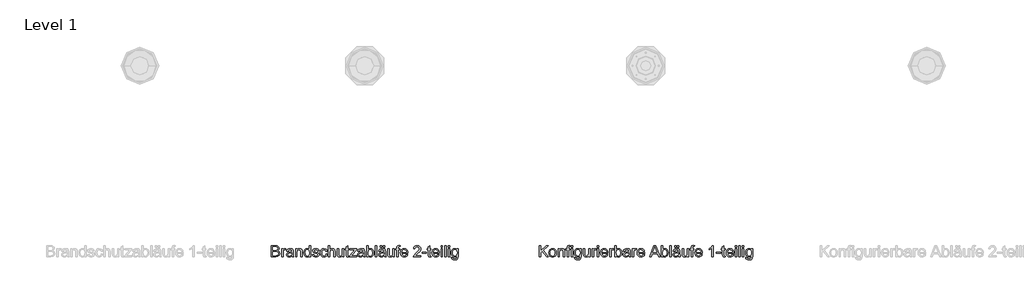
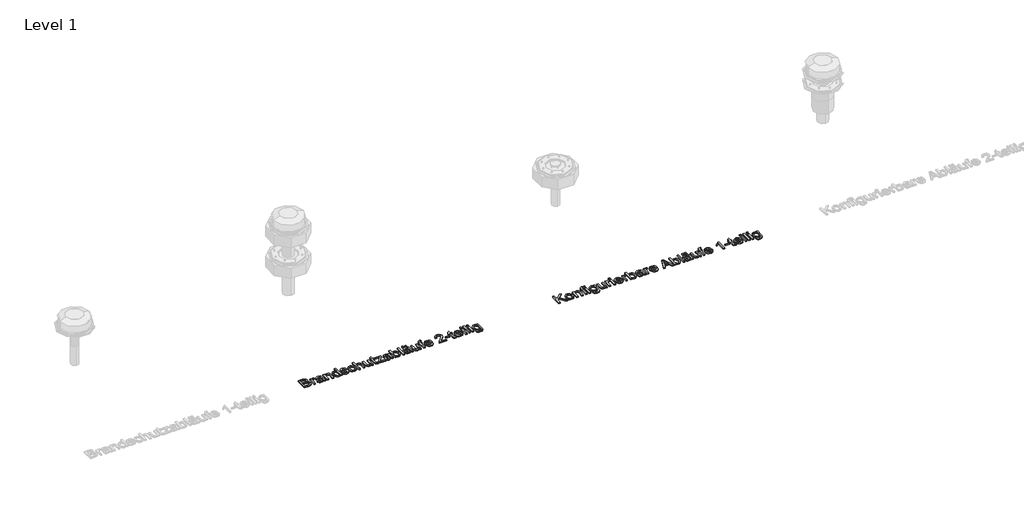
# One storey, part 3 of 4: 2 proxies.
"""IFC4 building model written with IfcOpenShell, lengths in millimetres."""

from ifc_helpers import new_model, si_unit, origin, origin_with_axes, place, context, project, spatial, polyline, outline, extrude, element, save

model = new_model("IFC4")

# Units and contexts
model_context = context("Model", 3, world=origin())
ifc_project = project(units=[si_unit("LENGTHUNIT", "METRE", prefix="MILLI")], contexts=[model_context])

# Site, building, storey
site = spatial("IfcSite", under=ifc_project)
building = spatial("IfcBuilding", under=site)
storey = spatial("IfcBuildingStorey", under=building, Name="Level 1", Elevation=0.0)

# Proxies
placement = place(None, origin())
element("IfcBuildingElementProxy", 1, Name="100mm ACO", ObjectType="100mm ACO", at=placement, inside=storey, context=model_context, shape_type="SweptSolid", body=[
    extrude(outline(polyline([(6724.21875, -647.193287), (6738.7152778, -656.4236111), (6743.5185185, -671.1516204), (6739.380787, -686.4583333), (6727.6186343, -696.7158565), (6706.9444444, -700.0), (6669.4444444, -700.0), (6669.4444444, -600.0), (6705.8159722, -600.0), (6720.8658854, -601.9965278), (6730.7146991, -607.9861111), (6736.150897, -616.4134838), (6737.962963, -625.7233796), (6734.5486111, -637.9340278), (6724.21875, -647.193287)]), holes=[polyline([(6682.4074074, -688.8888889), (6707.0601852, -688.8888889), (6718.2617187, -687.7206308), (6725.4195602, -684.2158565), (6730.5555556, -671.2962963), (6729.1883681, -663.9069734), (6725.0868056, -658.3478009), (6717.4189815, -654.864728), (6705.3530093, -653.7037037), (6682.4074074, -653.7037037), (6682.4074074, -688.8888889)]), polyline([(6682.4074074, -642.5925926), (6703.2118056, -642.5925926), (6713.9756944, -641.8113426), (6721.6579861, -637.6591435), (6725.0, -627.1990741), (6721.6290509, -616.2181713), (6713.5850694, -611.8923611), (6701.5914352, -611.1111111), (6682.4074074, -611.1111111), (6682.4074074, -642.5925926)])]), origin_with_axes(), (0.0, 0.0, 1.0), 10.0),
    extrude(outline(polyline([(6799.0740741, -628.7615741), (6795.0231481, -637.037037), (6786.5162037, -635.1851852), (6780.7219329, -636.8127894), (6776.5335648, -641.6956019), (6773.1481481, -659.9247685), (6773.1481481, -700.0), (6760.1851852, -700.0), (6760.1851852, -627.7777778), (6771.2962963, -627.7777778), (6771.2962963, -638.4837963), (6778.2262731, -629.0653935), (6786.6608796, -625.9259259), (6799.0740741, -628.7615741)])), origin_with_axes(), (0.0, 0.0, 1.0), 10.0),
    extrude(outline(polyline([(6869.4444444, -700.0), (6856.4814815, -700.0), (6852.7777778, -691.2615741), (6840.2850116, -699.2042824), (6826.8229167, -701.8518519), (6816.8366609, -700.4050926), (6809.2158565, -696.0648148), (6804.3872975, -689.3518519), (6802.7777778, -680.787037), (6804.3547454, -672.479022), (6809.0856481, -665.7841435), (6817.7155671, -660.8904803), (6830.9895833, -657.9861111), (6842.3321759, -656.25), (6852.7777778, -653.7037037), (6852.4450231, -645.6741898), (6850.5063657, -640.7986111), (6845.3414352, -636.7332176), (6835.7638889, -635.1851852), (6823.6834491, -638.3246528), (6817.5925926, -650.0), (6804.6296296, -648.4085648), (6808.1850405, -638.599537), (6814.8582176, -631.568287), (6824.6419271, -627.3365162), (6837.5289352, -625.9259259), (6856.7853009, -629.7887731), (6864.3373843, -639.1059028), (6865.7407407, -653.1539352), (6865.7407407, -669.6759259), (6866.2905093, -689.9305556), (6869.4444444, -700.0)]), holes=[polyline([(6852.7777778, -667.5925926), (6852.7777778, -662.962963), (6829.4994213, -668.287037), (6819.1804109, -672.3451968), (6815.7407407, -680.5844907), (6819.4444444, -689.2071759), (6830.1215278, -692.5925926), (6845.9346065, -686.9212963), (6851.066985, -679.2534722), (6852.7777778, -667.5925926)])]), origin_with_axes(), (0.0, 0.0, 1.0), 10.0),
    extrude(outline(polyline([(6943.5185185, -700.0), (6930.5555556, -700.0), (6930.5555556, -655.0347222), (6926.6927083, -639.4386574), (6915.943287, -635.1851852), (6905.9172454, -637.9050926), (6899.2042824, -645.5729167), (6897.2222222, -659.5775463), (6897.2222222, -700.0), (6884.2592593, -700.0), (6884.2592593, -627.7777778), (6895.3703704, -627.7777778), (6895.3703704, -637.818287), (6905.2662037, -628.8917824), (6918.5185185, -625.9259259), (6929.8900463, -627.9803241), (6938.6863426, -634.1290509), (6942.6938657, -642.8674769), (6943.5185185, -655.4108796), (6943.5185185, -700.0)])), origin_with_axes(), (0.0, 0.0, 1.0), 10.0),
    extrude(outline(polyline([(7021.2962963, -700.0), (7008.3333333, -700.0), (7008.3333333, -691.8402778), (6999.9782986, -699.3489583), (6988.599537, -701.8518519), (6976.7324942, -699.2115162), (6966.9994213, -691.2905093), (6960.4998553, -679.1594329), (6958.3333333, -663.8888889), (6960.4094329, -648.1481481), (6966.6377315, -636.1111111), (6976.2731481, -628.4722222), (6988.5706019, -625.9259259), (6999.8553241, -628.2118056), (7008.0729167, -635.0694444), (7008.3333333, -600.0), (7021.2962963, -600.0), (7021.2962963, -700.0)]), holes=[polyline([(6990.1041667, -692.5925926), (6997.1571181, -690.8854167), (7003.0381944, -685.7638889), (7007.0095486, -677.1701389), (7008.3333333, -665.0462963), (7003.4866898, -643.287037), (6997.5875289, -637.2106481), (6989.5833333, -635.1851852), (6981.6370081, -637.1672454), (6975.9114583, -643.1134259), (6971.2962963, -663.9178241), (6973.7847222, -679.6730324), (6980.7291667, -689.3518519), (6990.1041667, -692.5925926)])]), origin_with_axes(), (0.0, 0.0, 1.0), 10.0),
    extrude(outline(polyline([(7080.5555556, -648.1481481), (7075.7667824, -638.4259259), (7064.6990741, -635.1851852), (7053.3854167, -637.962963), (7049.0740741, -646.0358796), (7051.9241898, -653.1828704), (7065.3645833, -657.0601852), (7083.0873843, -661.2268519), (7092.1296296, -667.5491898), (7095.3703704, -678.8773148), (7093.359375, -687.8074363), (7087.3263889, -695.2112269), (7077.9296875, -700.1916956), (7065.8275463, -701.8518519), (7053.3528646, -700.4557292), (7043.9380787, -696.2673611), (7037.5759549, -689.2939815), (7034.2592593, -679.5428241), (7047.2222222, -677.7777778), (7052.8211806, -688.9033565), (7065.8275463, -692.5925926), (7078.125, -688.7586806), (7082.4074074, -679.4270833), (7080.4832176, -673.4519676), (7075.6799769, -670.0810185), (7062.0949074, -667.1875), (7041.1603009, -659.375), (7036.1111111, -646.7881944), (7037.9810475, -638.5018808), (7043.5908565, -631.8142361), (7052.3618345, -627.3980035), (7063.7152778, -625.9259259), (7075.6474248, -627.2135417), (7084.5920139, -631.0763889), (7090.5490451, -637.5072338), (7093.5185185, -646.4988426), (7080.5555556, -648.1481481)])), origin_with_axes(), (0.0, 0.0, 1.0), 10.0),
    extrude(outline(polyline([(7169.4444444, -675.5497685), (7165.4152199, -687.3553241), (7158.2465278, -695.5150463), (7148.9221644, -700.2676505), (7138.4259259, -701.8518519), (7124.1102431, -699.2621528), (7113.4548611, -691.4930556), (7106.8359375, -679.4487847), (7104.6296296, -664.0335648), (7109.6643519, -641.3483796), (7122.265625, -629.3836806), (7138.1655093, -625.9259259), (7157.6244213, -631.5827546), (7164.1601562, -638.566985), (7167.5925926, -648.2060185), (7154.6296296, -650.0), (7148.7268519, -638.9033565), (7138.3101852, -635.1851852), (7129.3547454, -637.0695891), (7122.8587963, -642.7228009), (7118.9091435, -651.7541956), (7117.5925926, -663.7731481), (7118.9127604, -676.0018808), (7122.8732639, -685.083912), (7129.3221933, -690.7154225), (7138.1076389, -692.5925926), (7150.708912, -687.962963), (7156.4814815, -674.0740741), (7169.4444444, -675.5497685)])), origin_with_axes(), (0.0, 0.0, 1.0), 10.0),
    extrude(outline(polyline([(7236.1111111, -700.0), (7223.1481481, -700.0), (7223.1481481, -653.2986111), (7219.458912, -639.7135417), (7208.4490741, -635.1851852), (7195.5150463, -640.5237269), (7191.2398727, -647.9564525), (7189.8148148, -659.5775463), (7189.8148148, -700.0), (7176.8518519, -700.0), (7176.8518519, -600.0), (7189.8148148, -600.0), (7189.8148148, -635.8217593), (7199.5153356, -628.3998843), (7211.3715278, -625.9259259), (7224.6527778, -628.7905093), (7233.5503472, -637.6012731), (7236.1111111, -654.1087963), (7236.1111111, -700.0)])), origin_with_axes(), (0.0, 0.0, 1.0), 10.0),
    extrude(outline(polyline([(7313.8888889, -700.0), (7302.7777778, -700.0), (7302.7777778, -689.4965278), (7292.5347222, -698.7630208), (7279.5717593, -701.8518519), (7265.4513889, -698.3362269), (7256.7997685, -688.6574074), (7254.6296296, -672.65625), (7254.6296296, -627.7777778), (7267.5925926, -627.7777778), (7267.5925926, -668.75), (7268.4895833, -682.8414352), (7273.1770833, -689.84375), (7282.2048611, -692.5925926), (7294.9508102, -687.6736111), (7299.432147, -680.1215278), (7300.9259259, -667.3032407), (7300.9259259, -627.7777778), (7313.8888889, -627.7777778), (7313.8888889, -700.0)])), origin_with_axes(), (0.0, 0.0, 1.0), 10.0),
    extrude(outline(polyline([(7360.1851852, -701.0127315), (7351.099537, -701.8518519), (7339.5109954, -698.9728009), (7335.0694444, -691.6666667), (7334.2592593, -679.3402778), (7334.2592593, -637.037037), (7325.0, -637.037037), (7325.0, -627.7777778), (7334.2592593, -627.7777778), (7334.2592593, -609.4328704), (7347.2222222, -601.8518519), (7347.2222222, -627.7777778), (7358.3333333, -627.7777778), (7358.3333333, -637.037037), (7347.2222222, -637.037037), (7347.2222222, -681.9444444), (7348.2638889, -690.162037), (7353.5590278, -692.5925926), (7358.59375, -692.5925926), (7360.1851852, -701.0127315)])), origin_with_axes(), (0.0, 0.0, 1.0), 10.0),
    extrude(outline(polyline([(7428.7037037, -700.0), (7365.7407407, -700.0), (7365.7407407, -691.40625), (7411.7476852, -636.5451389), (7397.6851852, -637.037037), (7367.5925926, -637.037037), (7367.5925926, -627.7777778), (7426.8518519, -627.7777778), (7426.8518519, -635.0983796), (7387.2685185, -682.5520833), (7381.2210648, -689.4675926), (7379.6296296, -691.3773148), (7395.1099537, -690.7407407), (7428.7037037, -690.7407407), (7428.7037037, -700.0)])), origin_with_axes(), (0.0, 0.0, 1.0), 10.0),
    extrude(outline(polyline([(7502.7777778, -700.0), (7489.8148148, -700.0), (7486.1111111, -691.2615741), (7473.6183449, -699.2042824), (7460.15625, -701.8518519), (7450.1699942, -700.4050926), (7442.5491898, -696.0648148), (7437.7206308, -689.3518519), (7436.1111111, -680.787037), (7437.6880787, -672.479022), (7442.4189815, -665.7841435), (7451.0489005, -660.8904803), (7464.3229167, -657.9861111), (7475.6655093, -656.25), (7486.1111111, -653.7037037), (7485.7783565, -645.6741898), (7483.8396991, -640.7986111), (7478.6747685, -636.7332176), (7469.0972222, -635.1851852), (7457.0167824, -638.3246528), (7450.9259259, -650.0), (7437.962963, -648.4085648), (7441.5183738, -638.599537), (7448.1915509, -631.568287), (7457.9752604, -627.3365162), (7470.8622685, -625.9259259), (7490.1186343, -629.7887731), (7497.6707176, -639.1059028), (7499.0740741, -653.1539352), (7499.0740741, -669.6759259), (7499.6238426, -689.9305556), (7502.7777778, -700.0)]), holes=[polyline([(7486.1111111, -667.5925926), (7486.1111111, -662.962963), (7462.8327546, -668.287037), (7452.5137442, -672.3451968), (7449.0740741, -680.5844907), (7452.7777778, -689.2071759), (7463.4548611, -692.5925926), (7479.2679398, -686.9212963), (7484.4003183, -679.2534722), (7486.1111111, -667.5925926)])]), origin_with_axes(), (0.0, 0.0, 1.0), 10.0),
    extrude(outline(polyline([(7530.7291667, -634.9247685), (7539.0914352, -628.1756366), (7550.1736111, -625.9259259), (7562.5976562, -628.4722222), (7572.265625, -636.1111111), (7578.4830729, -647.8587963), (7580.5555556, -662.7314815), (7578.2769097, -679.4668692), (7571.4409722, -691.7679398), (7561.5523727, -699.3308738), (7550.1157407, -701.8518519), (7539.098669, -699.3778935), (7530.8159722, -691.9560185), (7530.5555556, -700.0), (7517.5925926, -700.0), (7517.5925926, -600.0), (7530.5555556, -600.0), (7530.7291667, -634.9247685)]), holes=[polyline([(7548.900463, -692.5925926), (7556.3187211, -690.7009549), (7562.3119213, -685.0260417), (7566.2724248, -675.9295428), (7567.5925926, -663.7731481), (7562.7314815, -642.896412), (7556.9444444, -637.1129919), (7549.3055556, -635.1851852), (7541.6811343, -637.1744792), (7535.7060185, -643.1423611), (7530.5555556, -663.28125), (7532.6967593, -680.2372685), (7539.1493056, -688.9322917), (7548.900463, -692.5925926)])]), origin_with_axes(), (0.0, 0.0, 1.0), 10.0),
    extrude(outline(polyline([(7608.3333333, -700.0), (7595.3703704, -700.0), (7595.3703704, -600.0), (7608.3333333, -600.0), (7608.3333333, -700.0)])), origin_with_axes(), (0.0, 0.0, 1.0), 10.0),
    extrude(outline(polyline([(7676.8518519, -614.8148148), (7663.8888889, -614.8148148), (7663.8888889, -600.0), (7676.8518519, -600.0), (7676.8518519, -614.8148148)])), origin_with_axes(), (0.0, 0.0, 1.0), 10.0),
    extrude(outline(polyline([(7650.9259259, -614.8148148), (7637.962963, -614.8148148), (7637.962963, -600.0), (7650.9259259, -600.0), (7650.9259259, -614.8148148)])), origin_with_axes(), (0.0, 0.0, 1.0), 10.0),
    extrude(outline(polyline([(7689.8148148, -700.0), (7676.8518519, -700.0), (7673.1481481, -691.2615741), (7660.6553819, -699.2042824), (7647.193287, -701.8518519), (7637.2070312, -700.4050926), (7629.5862269, -696.0648148), (7624.7576678, -689.3518519), (7623.1481481, -680.787037), (7624.7251157, -672.479022), (7629.4560185, -665.7841435), (7638.0859375, -660.8904803), (7651.3599537, -657.9861111), (7662.7025463, -656.25), (7673.1481481, -653.7037037), (7672.8153935, -645.6741898), (7670.8767361, -640.7986111), (7665.7118056, -636.7332176), (7656.1342593, -635.1851852), (7644.0538194, -638.3246528), (7637.962963, -650.0), (7625.0, -648.4085648), (7628.5554109, -638.599537), (7635.228588, -631.568287), (7645.0122975, -627.3365162), (7657.8993056, -625.9259259), (7677.1556713, -629.7887731), (7684.7077546, -639.1059028), (7686.1111111, -653.1539352), (7686.1111111, -669.6759259), (7686.6608796, -689.9305556), (7689.8148148, -700.0)]), holes=[polyline([(7673.1481481, -667.5925926), (7673.1481481, -662.962963), (7649.8697917, -668.287037), (7639.5507812, -672.3451968), (7636.1111111, -680.5844907), (7639.8148148, -689.2071759), (7650.4918981, -692.5925926), (7666.3049769, -686.9212963), (7671.4373553, -679.2534722), (7673.1481481, -667.5925926)])]), origin_with_axes(), (0.0, 0.0, 1.0), 10.0),
    extrude(outline(polyline([(7763.8888889, -700.0), (7752.7777778, -700.0), (7752.7777778, -689.4965278), (7742.5347222, -698.7630208), (7729.5717593, -701.8518519), (7715.4513889, -698.3362269), (7706.7997685, -688.6574074), (7704.6296296, -672.65625), (7704.6296296, -627.7777778), (7717.5925926, -627.7777778), (7717.5925926, -668.75), (7718.4895833, -682.8414352), (7723.1770833, -689.84375), (7732.2048611, -692.5925926), (7744.9508102, -687.6736111), (7749.432147, -680.1215278), (7750.9259259, -667.3032407), (7750.9259259, -627.7777778), (7763.8888889, -627.7777778), (7763.8888889, -700.0)])), origin_with_axes(), (0.0, 0.0, 1.0), 10.0),
    extrude(outline(polyline([(7815.7407407, -599.1030093), (7814.1493056, -607.4074074), (7807.8414352, -607.4074074), (7801.5335648, -609.5341435), (7799.0740741, -620.0520833), (7799.0740741, -627.7777778), (7810.1851852, -627.7777778), (7810.1851852, -637.037037), (7799.0740741, -637.037037), (7799.0740741, -700.0), (7786.1111111, -700.0), (7786.1111111, -637.037037), (7775.0, -637.037037), (7775.0, -627.7777778), (7786.1111111, -627.7777778), (7786.1111111, -619.849537), (7787.0804398, -609.8668981), (7792.1875, -601.7650463), (7804.9479167, -598.1481481), (7815.7407407, -599.1030093)])), origin_with_axes(), (0.0, 0.0, 1.0), 10.0),
    extrude(outline(polyline([(7884.2592593, -666.6666667), (7830.5555556, -666.6666667), (7832.6280382, -677.7922454), (7837.3408565, -685.9375), (7844.1225405, -690.9288194), (7852.4016204, -692.5925926), (7864.0769676, -688.9033565), (7871.2962963, -677.7777778), (7884.2592593, -679.2824074), (7879.8828125, -688.9033565), (7872.9456019, -696.0069444), (7863.7008102, -700.390625), (7852.4016204, -701.8518519), (7837.8146701, -699.3453414), (7826.8084491, -691.8258102), (7819.8965567, -679.9660012), (7817.5925926, -664.4386574), (7819.8133681, -648.900463), (7826.4756944, -636.6030093), (7837.1744792, -628.5951968), (7851.5046296, -625.9259259), (7866.724537, -629.3836806), (7879.1521991, -641.1603009), (7882.9824942, -651.6963252), (7884.2592593, -666.6666667)]), holes=[polyline([(7871.2962963, -657.4074074), (7869.212963, -647.2511574), (7864.4675926, -640.3935185), (7851.1863426, -635.1851852), (7843.3304398, -636.7332176), (7837.0081019, -641.3773148), (7830.5555556, -657.4074074), (7871.2962963, -657.4074074)])]), origin_with_axes(), (0.0, 0.0, 1.0), 10.0),
    extrude(outline(polyline([(7999.0740741, -700.0), (7932.4074074, -700.0), (7938.3680556, -684.4039352), (7960.3877315, -662.7893519), (7978.1539352, -645.4571759), (7984.1218171, -636.4293981), (7986.1111111, -627.34375), (7980.6857639, -614.380787), (7966.9849537, -609.2592593), (7952.9513889, -614.3663194), (7948.6834491, -620.7356771), (7947.2222222, -629.6296296), (7934.2592593, -628.2407407), (7937.3987269, -616.1385995), (7944.4444444, -607.2627315), (7954.6585648, -601.8156829), (7967.3032407, -600.0), (7980.6604456, -602.0869502), (7990.697338, -608.3478009), (7996.97989, -617.5600405), (7999.0740741, -628.5011574), (7997.3234954, -638.4042245), (7992.0717593, -648.4375), (7964.6412037, -675.9548611), (7949.0740741, -690.7407407), (7999.0740741, -690.7407407), (7999.0740741, -700.0)])), origin_with_axes(), (0.0, 0.0, 1.0), 10.0),
    extrude(outline(polyline([(8049.0740741, -666.6666667), (8010.1851852, -666.6666667), (8010.1851852, -657.4074074), (8049.0740741, -657.4074074), (8049.0740741, -666.6666667)])), origin_with_axes(), (0.0, 0.0, 1.0), 10.0),
    extrude(outline(polyline([(8089.8148148, -701.0127315), (8080.7291667, -701.8518519), (8069.140625, -698.9728009), (8064.6990741, -691.6666667), (8063.8888889, -679.3402778), (8063.8888889, -637.037037), (8054.6296296, -637.037037), (8054.6296296, -627.7777778), (8063.8888889, -627.7777778), (8063.8888889, -609.4328704), (8076.8518519, -601.8518519), (8076.8518519, -627.7777778), (8087.962963, -627.7777778), (8087.962963, -637.037037), (8076.8518519, -637.037037), (8076.8518519, -681.9444444), (8077.8935185, -690.162037), (8083.1886574, -692.5925926), (8088.2233796, -692.5925926), (8089.8148148, -701.0127315)])), origin_with_axes(), (0.0, 0.0, 1.0), 10.0),
    extrude(outline(polyline([(8163.8888889, -666.6666667), (8110.1851852, -666.6666667), (8112.2576678, -677.7922454), (8116.9704861, -685.9375), (8123.7521701, -690.9288194), (8132.03125, -692.5925926), (8143.7065972, -688.9033565), (8150.9259259, -677.7777778), (8163.8888889, -679.2824074), (8159.5124421, -688.9033565), (8152.5752315, -696.0069444), (8143.3304398, -700.390625), (8132.03125, -701.8518519), (8117.4442998, -699.3453414), (8106.4380787, -691.8258102), (8099.5261863, -679.9660012), (8097.2222222, -664.4386574), (8099.4429977, -648.900463), (8106.1053241, -636.6030093), (8116.8041088, -628.5951968), (8131.1342593, -625.9259259), (8146.3541667, -629.3836806), (8158.7818287, -641.1603009), (8162.6121238, -651.6963252), (8163.8888889, -666.6666667)]), holes=[polyline([(8150.9259259, -657.4074074), (8148.8425926, -647.2511574), (8144.0972222, -640.3935185), (8130.8159722, -635.1851852), (8122.9600694, -636.7332176), (8116.6377315, -641.3773148), (8110.1851852, -657.4074074), (8150.9259259, -657.4074074)])]), origin_with_axes(), (0.0, 0.0, 1.0), 10.0),
    extrude(outline(polyline([(8191.6666667, -612.962963), (8178.7037037, -612.962963), (8178.7037037, -600.0), (8191.6666667, -600.0), (8191.6666667, -612.962963)])), origin_with_axes(), (0.0, 0.0, 1.0), 10.0),
    extrude(outline(polyline([(8191.6666667, -700.0), (8178.7037037, -700.0), (8178.7037037, -627.7777778), (8191.6666667, -627.7777778), (8191.6666667, -700.0)])), origin_with_axes(), (0.0, 0.0, 1.0), 10.0),
    extrude(outline(polyline([(8223.1481481, -700.0), (8210.1851852, -700.0), (8210.1851852, -600.0), (8223.1481481, -600.0), (8223.1481481, -700.0)])), origin_with_axes(), (0.0, 0.0, 1.0), 10.0),
    extrude(outline(polyline([(8254.6296296, -612.962963), (8241.6666667, -612.962963), (8241.6666667, -600.0), (8254.6296296, -600.0), (8254.6296296, -612.962963)])), origin_with_axes(), (0.0, 0.0, 1.0), 10.0),
    extrude(outline(polyline([(8254.6296296, -700.0), (8241.6666667, -700.0), (8241.6666667, -627.7777778), (8254.6296296, -627.7777778), (8254.6296296, -700.0)])), origin_with_axes(), (0.0, 0.0, 1.0), 10.0),
    extrude(outline(polyline([(8332.4074074, -689.3518519), (8329.3547454, -711.9936343), (8318.4895833, -723.6255787), (8299.8263889, -727.7777778), (8288.6103877, -726.3708044), (8279.4415509, -722.1498843), (8273.33261, -714.7243924), (8271.2962963, -703.7037037), (8284.2592593, -705.7581019), (8288.8310185, -715.3211806), (8300.0289352, -718.5185185), (8313.3391204, -714.8292824), (8318.5040509, -705.8449074), (8319.4444444, -691.2326389), (8310.6698495, -697.8081597), (8299.8553241, -700.0), (8287.463831, -697.3885995), (8277.7777778, -689.5543981), (8271.5277778, -677.7416088), (8269.4444444, -663.1944444), (8271.4265046, -648.5532407), (8277.3726852, -636.5740741), (8286.8200231, -628.587963), (8299.3055556, -625.9259259), (8310.3804977, -628.3058449), (8319.1840278, -635.4456019), (8319.4444444, -627.7777778), (8332.4074074, -627.7777778), (8332.4074074, -689.3518519)]), holes=[polyline([(8301.7939815, -690.7407407), (8309.0060764, -689.134838), (8315.3645833, -684.3171296), (8319.8133681, -675.7233796), (8321.2962963, -662.7893519), (8319.8820891, -651.0018808), (8315.6394676, -642.3177083), (8309.3135127, -636.968316), (8301.6493056, -635.1851852), (8293.927228, -637.0117187), (8287.7748843, -642.4913194), (8283.7492766, -651.1465567), (8282.4074074, -662.5), (8283.8143808, -675.2170139), (8288.0353009, -683.9699074), (8294.2889178, -689.0480324), (8301.7939815, -690.7407407)])]), origin_with_axes(), (0.0, 0.0, 1.0), 10.0),
])
element("IfcBuildingElementProxy", 2, Name="100mm ACO", ObjectType="100mm ACO", at=placement, inside=storey, context=model_context, shape_type="SweptSolid", body=[
    extrude(outline(polyline([(9132.8703704, -700.0), (9117.3321759, -700.0), (9080.4108796, -648.8136574), (9063.8888889, -664.8148148), (9063.8888889, -700.0), (9050.9259259, -700.0), (9050.9259259, -600.0), (9063.8888889, -600.0), (9063.8888889, -647.8009259), (9113.2523148, -600.0), (9130.8449074, -600.0), (9089.5833333, -639.9305556), (9132.8703704, -700.0)])), origin_with_axes(), (0.0, 0.0, 1.0), 10.0),
    extrude(outline(polyline([(9171.2673611, -625.9259259), (9184.4437211, -628.3203125), (9195.1533565, -635.5034722), (9202.2605613, -647.0992477), (9204.6296296, -662.7314815), (9202.0652488, -681.0040509), (9194.3721065, -692.9976852), (9183.4671586, -699.6383102), (9171.2673611, -701.8518519), (9158.6769387, -699.5768229), (9147.8732639, -692.7517361), (9140.4405382, -680.9859664), (9137.962963, -663.8888889), (9140.3573495, -647.1715856), (9147.5405093, -635.3298611), (9158.2609954, -628.2769097), (9171.2673611, -625.9259259)]), holes=[polyline([(9171.2673611, -692.5925926), (9180.0745081, -690.5852141), (9186.4728009, -684.5630787), (9191.6666667, -663.4259259), (9190.198206, -651.1429398), (9185.7928241, -642.3032407), (9179.224537, -636.9646991), (9171.2673611, -635.1851852), (9163.1546586, -636.9900174), (9156.640625, -642.4045139), (9152.3546007, -651.3925058), (9150.9259259, -663.9178241), (9152.379919, -676.3997396), (9156.7418981, -685.3732639), (9163.28125, -690.7877604), (9171.2673611, -692.5925926)])]), origin_with_axes(), (0.0, 0.0, 1.0), 10.0),
    extrude(outline(polyline([(9278.7037037, -700.0), (9265.7407407, -700.0), (9265.7407407, -655.0347222), (9261.8778935, -639.4386574), (9251.1284722, -635.1851852), (9241.1024306, -637.9050926), (9234.3894676, -645.5729167), (9232.4074074, -659.5775463), (9232.4074074, -700.0), (9219.4444444, -700.0), (9219.4444444, -627.7777778), (9230.5555556, -627.7777778), (9230.5555556, -637.818287), (9240.4513889, -628.8917824), (9253.7037037, -625.9259259), (9265.0752315, -627.9803241), (9273.8715278, -634.1290509), (9277.8790509, -642.8674769), (9278.7037037, -655.4108796), (9278.7037037, -700.0)])), origin_with_axes(), (0.0, 0.0, 1.0), 10.0),
    extrude(outline(polyline([(9330.5555556, -599.1030093), (9328.9641204, -607.4074074), (9322.65625, -607.4074074), (9316.3483796, -609.5341435), (9313.8888889, -620.0520833), (9313.8888889, -627.7777778), (9325.0, -627.7777778), (9325.0, -637.037037), (9313.8888889, -637.037037), (9313.8888889, -700.0), (9300.9259259, -700.0), (9300.9259259, -637.037037), (9289.8148148, -637.037037), (9289.8148148, -627.7777778), (9300.9259259, -627.7777778), (9300.9259259, -619.849537), (9301.8952546, -609.8668981), (9307.0023148, -601.7650463), (9319.7627315, -598.1481481), (9330.5555556, -599.1030093)])), origin_with_axes(), (0.0, 0.0, 1.0), 10.0),
    extrude(outline(polyline([(9349.0740741, -612.962963), (9336.1111111, -612.962963), (9336.1111111, -600.0), (9349.0740741, -600.0), (9349.0740741, -612.962963)])), origin_with_axes(), (0.0, 0.0, 1.0), 10.0),
    extrude(outline(polyline([(9349.0740741, -700.0), (9336.1111111, -700.0), (9336.1111111, -627.7777778), (9349.0740741, -627.7777778), (9349.0740741, -700.0)])), origin_with_axes(), (0.0, 0.0, 1.0), 10.0),
    extrude(outline(polyline([(9426.8518519, -689.3518519), (9423.7991898, -711.9936343), (9412.9340278, -723.6255787), (9394.2708333, -727.7777778), (9383.0548322, -726.3708044), (9373.8859954, -722.1498843), (9367.7770544, -714.7243924), (9365.7407407, -703.7037037), (9378.7037037, -705.7581019), (9383.275463, -715.3211806), (9394.4733796, -718.5185185), (9407.7835648, -714.8292824), (9412.9484954, -705.8449074), (9413.8888889, -691.2326389), (9405.114294, -697.8081597), (9394.2997685, -700.0), (9381.9082755, -697.3885995), (9372.2222222, -689.5543981), (9365.9722222, -677.7416088), (9363.8888889, -663.1944444), (9365.8709491, -648.5532407), (9371.8171296, -636.5740741), (9381.2644676, -628.587963), (9393.75, -625.9259259), (9404.8249421, -628.3058449), (9413.6284722, -635.4456019), (9413.8888889, -627.7777778), (9426.8518519, -627.7777778), (9426.8518519, -689.3518519)]), holes=[polyline([(9396.2384259, -690.7407407), (9403.4505208, -689.134838), (9409.8090278, -684.3171296), (9414.2578125, -675.7233796), (9415.7407407, -662.7893519), (9414.3265336, -651.0018808), (9410.083912, -642.3177083), (9403.7579572, -636.968316), (9396.09375, -635.1851852), (9388.3716725, -637.0117188), (9382.2193287, -642.4913194), (9378.1937211, -651.1465567), (9376.8518519, -662.5), (9378.2588252, -675.2170139), (9382.4797454, -683.9699074), (9388.7333623, -689.0480324), (9396.2384259, -690.7407407)])]), origin_with_axes(), (0.0, 0.0, 1.0), 10.0),
    extrude(outline(polyline([(9504.6296296, -700.0), (9493.5185185, -700.0), (9493.5185185, -689.4965278), (9483.275463, -698.7630208), (9470.3125, -701.8518519), (9456.1921296, -698.3362269), (9447.5405093, -688.6574074), (9445.3703704, -672.65625), (9445.3703704, -627.7777778), (9458.3333333, -627.7777778), (9458.3333333, -668.75), (9459.2303241, -682.8414352), (9463.9178241, -689.84375), (9472.9456019, -692.5925926), (9485.6915509, -687.6736111), (9490.1728877, -680.1215278), (9491.6666667, -667.3032407), (9491.6666667, -627.7777778), (9504.6296296, -627.7777778), (9504.6296296, -700.0)])), origin_with_axes(), (0.0, 0.0, 1.0), 10.0),
    extrude(outline(polyline([(9562.037037, -628.7615741), (9557.9861111, -637.037037), (9549.4791667, -635.1851852), (9543.6848958, -636.8127894), (9539.4965278, -641.6956019), (9536.1111111, -659.9247685), (9536.1111111, -700.0), (9523.1481481, -700.0), (9523.1481481, -627.7777778), (9534.2592593, -627.7777778), (9534.2592593, -638.4837963), (9541.1892361, -629.0653935), (9549.6238426, -625.9259259), (9562.037037, -628.7615741)])), origin_with_axes(), (0.0, 0.0, 1.0), 10.0),
    extrude(outline(polyline([(9582.4074074, -612.962963), (9569.4444444, -612.962963), (9569.4444444, -600.0), (9582.4074074, -600.0), (9582.4074074, -612.962963)])), origin_with_axes(), (0.0, 0.0, 1.0), 10.0),
    extrude(outline(polyline([(9582.4074074, -700.0), (9569.4444444, -700.0), (9569.4444444, -627.7777778), (9582.4074074, -627.7777778), (9582.4074074, -700.0)])), origin_with_axes(), (0.0, 0.0, 1.0), 10.0),
    extrude(outline(polyline([(9663.8888889, -666.6666667), (9610.1851852, -666.6666667), (9612.2576678, -677.7922454), (9616.9704861, -685.9375), (9623.7521701, -690.9288194), (9632.03125, -692.5925926), (9643.7065972, -688.9033565), (9650.9259259, -677.7777778), (9663.8888889, -679.2824074), (9659.5124421, -688.9033565), (9652.5752315, -696.0069444), (9643.3304398, -700.390625), (9632.03125, -701.8518519), (9617.4442998, -699.3453414), (9606.4380787, -691.8258102), (9599.5261863, -679.9660012), (9597.2222222, -664.4386574), (9599.4429977, -648.900463), (9606.1053241, -636.6030093), (9616.8041088, -628.5951968), (9631.1342593, -625.9259259), (9646.3541667, -629.3836806), (9658.7818287, -641.1603009), (9662.6121238, -651.6963252), (9663.8888889, -666.6666667)]), holes=[polyline([(9650.9259259, -657.4074074), (9648.8425926, -647.2511574), (9644.0972222, -640.3935185), (9630.8159722, -635.1851852), (9622.9600694, -636.7332176), (9616.6377315, -641.3773148), (9610.1851852, -657.4074074), (9650.9259259, -657.4074074)])]), origin_with_axes(), (0.0, 0.0, 1.0), 10.0),
    extrude(outline(polyline([(9717.5925926, -628.7615741), (9713.5416667, -637.037037), (9705.0347222, -635.1851852), (9699.2404514, -636.8127894), (9695.0520833, -641.6956019), (9691.6666667, -659.9247685), (9691.6666667, -700.0), (9678.7037037, -700.0), (9678.7037037, -627.7777778), (9689.8148148, -627.7777778), (9689.8148148, -638.4837963), (9696.7447917, -629.0653935), (9705.1793981, -625.9259259), (9717.5925926, -628.7615741)])), origin_with_axes(), (0.0, 0.0, 1.0), 10.0),
    extrude(outline(polyline([(9738.1365741, -634.9247685), (9746.4988426, -628.1756366), (9757.5810185, -625.9259259), (9770.0050637, -628.4722222), (9779.6730324, -636.1111111), (9785.8904803, -647.8587963), (9787.962963, -662.7314815), (9785.6843171, -679.4668692), (9778.8483796, -691.7679398), (9768.9597801, -699.3308738), (9757.5231481, -701.8518519), (9746.5060764, -699.3778935), (9738.2233796, -691.9560185), (9737.962963, -700.0), (9725.0, -700.0), (9725.0, -600.0), (9737.962963, -600.0), (9738.1365741, -634.9247685)]), holes=[polyline([(9756.3078704, -692.5925926), (9763.7261285, -690.7009549), (9769.7193287, -685.0260417), (9773.6798322, -675.9295428), (9775.0, -663.7731481), (9770.1388889, -642.896412), (9764.3518519, -637.1129919), (9756.712963, -635.1851852), (9749.0885417, -637.1744792), (9743.1134259, -643.1423611), (9737.962963, -663.28125), (9740.1041667, -680.2372685), (9746.556713, -688.9322917), (9756.3078704, -692.5925926)])]), origin_with_axes(), (0.0, 0.0, 1.0), 10.0),
    extrude(outline(polyline([(9865.7407407, -700.0), (9852.7777778, -700.0), (9849.0740741, -691.2615741), (9836.5813079, -699.2042824), (9823.119213, -701.8518519), (9813.1329572, -700.4050926), (9805.5121528, -696.0648148), (9800.6835937, -689.3518519), (9799.0740741, -680.787037), (9800.6510417, -672.479022), (9805.3819444, -665.7841435), (9814.0118634, -660.8904803), (9827.2858796, -657.9861111), (9838.6284722, -656.25), (9849.0740741, -653.7037037), (9848.7413194, -645.6741898), (9846.802662, -640.7986111), (9841.6377315, -636.7332176), (9832.0601852, -635.1851852), (9819.9797454, -638.3246528), (9813.8888889, -650.0), (9800.9259259, -648.4085648), (9804.4813368, -638.599537), (9811.1545139, -631.568287), (9820.9382234, -627.3365162), (9833.8252315, -625.9259259), (9853.0815972, -629.7887731), (9860.6336806, -639.1059028), (9862.037037, -653.1539352), (9862.037037, -669.6759259), (9862.5868056, -689.9305556), (9865.7407407, -700.0)]), holes=[polyline([(9849.0740741, -667.5925926), (9849.0740741, -662.962963), (9825.7957176, -668.287037), (9815.4767072, -672.3451968), (9812.037037, -680.5844907), (9815.7407407, -689.2071759), (9826.4178241, -692.5925926), (9842.2309028, -686.9212963), (9847.3632812, -679.2534722), (9849.0740741, -667.5925926)])]), origin_with_axes(), (0.0, 0.0, 1.0), 10.0),
    extrude(outline(polyline([(9919.4444444, -628.7615741), (9915.3935185, -637.037037), (9906.8865741, -635.1851852), (9901.0923032, -636.8127894), (9896.9039352, -641.6956019), (9893.5185185, -659.9247685), (9893.5185185, -700.0), (9880.5555556, -700.0), (9880.5555556, -627.7777778), (9891.6666667, -627.7777778), (9891.6666667, -638.4837963), (9898.5966435, -629.0653935), (9907.03125, -625.9259259), (9919.4444444, -628.7615741)])), origin_with_axes(), (0.0, 0.0, 1.0), 10.0),
    extrude(outline(polyline([(9989.8148148, -666.6666667), (9936.1111111, -666.6666667), (9938.1835937, -677.7922454), (9942.896412, -685.9375), (9949.6780961, -690.9288194), (9957.9571759, -692.5925926), (9969.6325231, -688.9033565), (9976.8518519, -677.7777778), (9989.8148148, -679.2824074), (9985.4383681, -688.9033565), (9978.5011574, -696.0069444), (9969.2563657, -700.390625), (9957.9571759, -701.8518519), (9943.3702257, -699.3453414), (9932.3640046, -691.8258102), (9925.4521123, -679.9660012), (9923.1481481, -664.4386574), (9925.3689236, -648.900463), (9932.03125, -636.6030093), (9942.7300347, -628.5951968), (9957.0601852, -625.9259259), (9972.2800926, -629.3836806), (9984.7077546, -641.1603009), (9988.5380498, -651.6963252), (9989.8148148, -666.6666667)]), holes=[polyline([(9976.8518519, -657.4074074), (9974.7685185, -647.2511574), (9970.0231481, -640.3935185), (9956.7418981, -635.1851852), (9948.8859954, -636.7332176), (9942.5636574, -641.3773148), (9936.1111111, -657.4074074), (9976.8518519, -657.4074074)])]), origin_with_axes(), (0.0, 0.0, 1.0), 10.0),
    extrude(outline(polyline([(10127.3148148, -700.0), (10113.5127315, -700.0), (10101.5335648, -670.3703704), (10059.0856481, -670.3703704), (10047.5694444, -700.0), (10033.7962963, -700.0), (10072.65625, -600.0), (10086.8344907, -600.0), (10127.3148148, -700.0)]), holes=[polyline([(10097.0196759, -659.2592593), (10082.5954861, -622.5983796), (10079.6296296, -610.9375), (10074.9710648, -629.5138889), (10063.4259259, -659.2592593), (10097.0196759, -659.2592593)])]), origin_with_axes(), (0.0, 0.0, 1.0), 10.0),
    extrude(outline(polyline([(10149.2476852, -634.9247685), (10157.6099537, -628.1756366), (10168.6921296, -625.9259259), (10181.1161748, -628.4722222), (10190.7841435, -636.1111111), (10197.0015914, -647.8587963), (10199.0740741, -662.7314815), (10196.7954282, -679.4668692), (10189.9594907, -691.7679398), (10180.0708912, -699.3308738), (10168.6342593, -701.8518519), (10157.6171875, -699.3778935), (10149.3344907, -691.9560185), (10149.0740741, -700.0), (10136.1111111, -700.0), (10136.1111111, -600.0), (10149.0740741, -600.0), (10149.2476852, -634.9247685)]), holes=[polyline([(10167.4189815, -692.5925926), (10174.8372396, -690.7009549), (10180.8304398, -685.0260417), (10184.7909433, -675.9295428), (10186.1111111, -663.7731481), (10181.25, -642.896412), (10175.462963, -637.1129919), (10167.8240741, -635.1851852), (10160.1996528, -637.1744792), (10154.224537, -643.1423611), (10149.0740741, -663.28125), (10151.2152778, -680.2372685), (10157.6678241, -688.9322917), (10167.4189815, -692.5925926)])]), origin_with_axes(), (0.0, 0.0, 1.0), 10.0),
    extrude(outline(polyline([(10226.8518519, -700.0), (10213.8888889, -700.0), (10213.8888889, -600.0), (10226.8518519, -600.0), (10226.8518519, -700.0)])), origin_with_axes(), (0.0, 0.0, 1.0), 10.0),
    extrude(outline(polyline([(10308.3333333, -700.0), (10295.3703704, -700.0), (10291.6666667, -691.2615741), (10279.1739005, -699.2042824), (10265.7118056, -701.8518519), (10255.7255498, -700.4050926), (10248.1047454, -696.0648148), (10243.2761863, -689.3518519), (10241.6666667, -680.787037), (10243.2436343, -672.479022), (10247.974537, -665.7841435), (10256.604456, -660.8904803), (10269.8784722, -657.9861111), (10281.2210648, -656.25), (10291.6666667, -653.7037037), (10291.333912, -645.6741898), (10289.3952546, -640.7986111), (10284.2303241, -636.7332176), (10274.6527778, -635.1851852), (10262.572338, -638.3246528), (10256.4814815, -650.0), (10243.5185185, -648.4085648), (10247.0739294, -638.599537), (10253.7471065, -631.568287), (10263.530816, -627.3365162), (10276.4178241, -625.9259259), (10295.6741898, -629.7887731), (10303.2262731, -639.1059028), (10304.6296296, -653.1539352), (10304.6296296, -669.6759259), (10305.1793981, -689.9305556), (10308.3333333, -700.0)]), holes=[polyline([(10291.6666667, -667.5925926), (10291.6666667, -662.962963), (10268.3883102, -668.287037), (10258.0692998, -672.3451968), (10254.6296296, -680.5844907), (10258.3333333, -689.2071759), (10269.0104167, -692.5925926), (10284.8234954, -686.9212963), (10289.9558738, -679.2534722), (10291.6666667, -667.5925926)])]), origin_with_axes(), (0.0, 0.0, 1.0), 10.0),
    extrude(outline(polyline([(10269.4444444, -614.8148148), (10256.4814815, -614.8148148), (10256.4814815, -600.0), (10269.4444444, -600.0), (10269.4444444, -614.8148148)])), origin_with_axes(), (0.0, 0.0, 1.0), 10.0),
    extrude(outline(polyline([(10295.3703704, -614.8148148), (10282.4074074, -614.8148148), (10282.4074074, -600.0), (10295.3703704, -600.0), (10295.3703704, -614.8148148)])), origin_with_axes(), (0.0, 0.0, 1.0), 10.0),
    extrude(outline(polyline([(10382.4074074, -700.0), (10371.2962963, -700.0), (10371.2962963, -689.4965278), (10361.0532407, -698.7630208), (10348.0902778, -701.8518519), (10333.9699074, -698.3362269), (10325.318287, -688.6574074), (10323.1481481, -672.65625), (10323.1481481, -627.7777778), (10336.1111111, -627.7777778), (10336.1111111, -668.75), (10337.0081019, -682.8414352), (10341.6956019, -689.84375), (10350.7233796, -692.5925926), (10363.4693287, -687.6736111), (10367.9506655, -680.1215278), (10369.4444444, -667.3032407), (10369.4444444, -627.7777778), (10382.4074074, -627.7777778), (10382.4074074, -700.0)])), origin_with_axes(), (0.0, 0.0, 1.0), 10.0),
    extrude(outline(polyline([(10434.2592593, -599.1030093), (10432.6678241, -607.4074074), (10426.3599537, -607.4074074), (10420.0520833, -609.5341435), (10417.5925926, -620.0520833), (10417.5925926, -627.7777778), (10428.7037037, -627.7777778), (10428.7037037, -637.037037), (10417.5925926, -637.037037), (10417.5925926, -700.0), (10404.6296296, -700.0), (10404.6296296, -637.037037), (10393.5185185, -637.037037), (10393.5185185, -627.7777778), (10404.6296296, -627.7777778), (10404.6296296, -619.849537), (10405.5989583, -609.8668981), (10410.7060185, -601.7650463), (10423.4664352, -598.1481481), (10434.2592593, -599.1030093)])), origin_with_axes(), (0.0, 0.0, 1.0), 10.0),
    extrude(outline(polyline([(10502.7777778, -666.6666667), (10449.0740741, -666.6666667), (10451.1465567, -677.7922454), (10455.859375, -685.9375), (10462.641059, -690.9288194), (10470.9201389, -692.5925926), (10482.5954861, -688.9033565), (10489.8148148, -677.7777778), (10502.7777778, -679.2824074), (10498.401331, -688.9033565), (10491.4641204, -696.0069444), (10482.2193287, -700.390625), (10470.9201389, -701.8518519), (10456.3331887, -699.3453414), (10445.3269676, -691.8258102), (10438.4150752, -679.9660012), (10436.1111111, -664.4386574), (10438.3318866, -648.900463), (10444.994213, -636.6030093), (10455.6929977, -628.5951968), (10470.0231481, -625.9259259), (10485.2430556, -629.3836806), (10497.6707176, -641.1603009), (10501.5010127, -651.6963252), (10502.7777778, -666.6666667)]), holes=[polyline([(10489.8148148, -657.4074074), (10487.7314815, -647.2511574), (10482.9861111, -640.3935185), (10469.7048611, -635.1851852), (10461.8489583, -636.7332176), (10455.5266204, -641.3773148), (10449.0740741, -657.4074074), (10489.8148148, -657.4074074)])]), origin_with_axes(), (0.0, 0.0, 1.0), 10.0),
    extrude(outline(polyline([(10600.9259259, -700.0), (10587.962963, -700.0), (10587.962963, -622.2222222), (10563.8888889, -637.037037), (10563.8888889, -627.7777778), (10582.1614583, -616.0590278), (10593.5185185, -601.8518519), (10600.9259259, -601.8518519), (10600.9259259, -700.0)])), origin_with_axes(), (0.0, 0.0, 1.0), 10.0),
    extrude(outline(polyline([(10667.5925926, -666.6666667), (10628.7037037, -666.6666667), (10628.7037037, -657.4074074), (10667.5925926, -657.4074074), (10667.5925926, -666.6666667)])), origin_with_axes(), (0.0, 0.0, 1.0), 10.0),
    extrude(outline(polyline([(10708.3333333, -701.0127315), (10699.2476852, -701.8518519), (10687.6591435, -698.9728009), (10683.2175926, -691.6666667), (10682.4074074, -679.3402778), (10682.4074074, -637.037037), (10673.1481481, -637.037037), (10673.1481481, -627.7777778), (10682.4074074, -627.7777778), (10682.4074074, -609.4328704), (10695.3703704, -601.8518519), (10695.3703704, -627.7777778), (10706.4814815, -627.7777778), (10706.4814815, -637.037037), (10695.3703704, -637.037037), (10695.3703704, -681.9444444), (10696.412037, -690.162037), (10701.7071759, -692.5925926), (10706.7418981, -692.5925926), (10708.3333333, -701.0127315)])), origin_with_axes(), (0.0, 0.0, 1.0), 10.0),
    extrude(outline(polyline([(10782.4074074, -666.6666667), (10728.7037037, -666.6666667), (10730.7761863, -677.7922454), (10735.4890046, -685.9375), (10742.2706887, -690.9288194), (10750.5497685, -692.5925926), (10762.2251157, -688.9033565), (10769.4444444, -677.7777778), (10782.4074074, -679.2824074), (10778.0309606, -688.9033565), (10771.09375, -696.0069444), (10761.8489583, -700.390625), (10750.5497685, -701.8518519), (10735.9628183, -699.3453414), (10724.9565972, -691.8258102), (10718.0447049, -679.9660012), (10715.7407407, -664.4386574), (10717.9615162, -648.900463), (10724.6238426, -636.6030093), (10735.3226273, -628.5951968), (10749.6527778, -625.9259259), (10764.8726852, -629.3836806), (10777.3003472, -641.1603009), (10781.1306424, -651.6963252), (10782.4074074, -666.6666667)]), holes=[polyline([(10769.4444444, -657.4074074), (10767.3611111, -647.2511574), (10762.6157407, -640.3935185), (10749.3344907, -635.1851852), (10741.478588, -636.7332176), (10735.15625, -641.3773148), (10728.7037037, -657.4074074), (10769.4444444, -657.4074074)])]), origin_with_axes(), (0.0, 0.0, 1.0), 10.0),
    extrude(outline(polyline([(10810.1851852, -612.962963), (10797.2222222, -612.962963), (10797.2222222, -600.0), (10810.1851852, -600.0), (10810.1851852, -612.962963)])), origin_with_axes(), (0.0, 0.0, 1.0), 10.0),
    extrude(outline(polyline([(10810.1851852, -700.0), (10797.2222222, -700.0), (10797.2222222, -627.7777778), (10810.1851852, -627.7777778), (10810.1851852, -700.0)])), origin_with_axes(), (0.0, 0.0, 1.0), 10.0),
    extrude(outline(polyline([(10841.6666667, -700.0), (10828.7037037, -700.0), (10828.7037037, -600.0), (10841.6666667, -600.0), (10841.6666667, -700.0)])), origin_with_axes(), (0.0, 0.0, 1.0), 10.0),
    extrude(outline(polyline([(10873.1481481, -612.962963), (10860.1851852, -612.962963), (10860.1851852, -600.0), (10873.1481481, -600.0), (10873.1481481, -612.962963)])), origin_with_axes(), (0.0, 0.0, 1.0), 10.0),
    extrude(outline(polyline([(10873.1481481, -700.0), (10860.1851852, -700.0), (10860.1851852, -627.7777778), (10873.1481481, -627.7777778), (10873.1481481, -700.0)])), origin_with_axes(), (0.0, 0.0, 1.0), 10.0),
    extrude(outline(polyline([(10950.9259259, -689.3518519), (10947.8732639, -711.9936343), (10937.0081019, -723.6255787), (10918.3449074, -727.7777778), (10907.1289062, -726.3708044), (10897.9600694, -722.1498843), (10891.8511285, -714.7243924), (10889.8148148, -703.7037037), (10902.7777778, -705.7581019), (10907.349537, -715.3211806), (10918.5474537, -718.5185185), (10931.8576389, -714.8292824), (10937.0225694, -705.8449074), (10937.962963, -691.2326389), (10929.1883681, -697.8081597), (10918.3738426, -700.0), (10905.9823495, -697.3885995), (10896.2962963, -689.5543981), (10890.0462963, -677.7416088), (10887.962963, -663.1944444), (10889.9450231, -648.5532407), (10895.8912037, -636.5740741), (10905.3385417, -628.587963), (10917.8240741, -625.9259259), (10928.8990162, -628.3058449), (10937.7025463, -635.4456019), (10937.962963, -627.7777778), (10950.9259259, -627.7777778), (10950.9259259, -689.3518519)]), holes=[polyline([(10920.3125, -690.7407407), (10927.5245949, -689.134838), (10933.8831019, -684.3171296), (10938.3318866, -675.7233796), (10939.8148148, -662.7893519), (10938.4006076, -651.0018808), (10934.1579861, -642.3177083), (10927.8320312, -636.968316), (10920.1678241, -635.1851852), (10912.4457465, -637.0117188), (10906.2934028, -642.4913194), (10902.2677951, -651.1465567), (10900.9259259, -662.5), (10902.3328993, -675.2170139), (10906.5538194, -683.9699074), (10912.8074363, -689.0480324), (10920.3125, -690.7407407)])]), origin_with_axes(), (0.0, 0.0, 1.0), 10.0),
])

save(model, "model.ifc")
